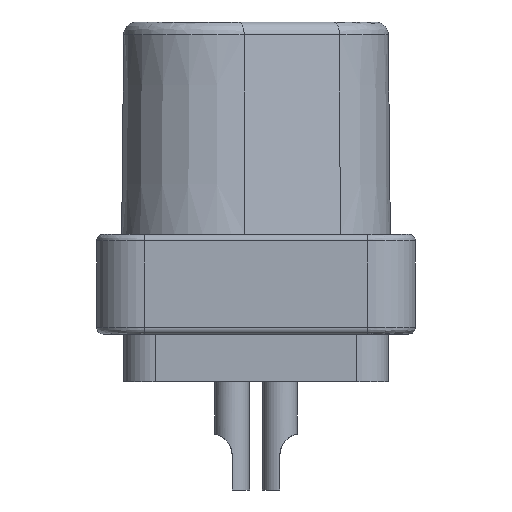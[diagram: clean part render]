
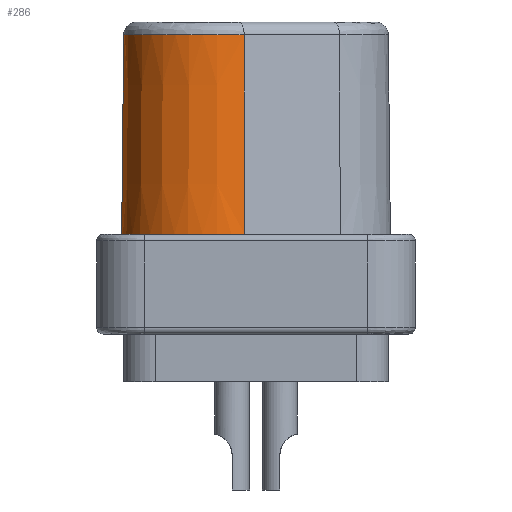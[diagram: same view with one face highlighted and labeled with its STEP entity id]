
A CAD part, left-side view. The second image highlights one B-rep face of the part: STEP entity #286.
In plain terms, the highlighted conical face has half-angle 0.585 degrees and reference radius 2 mm.
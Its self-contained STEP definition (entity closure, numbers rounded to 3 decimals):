
#44 = CONICAL_SURFACE ( 'NONE', #10660, 2., 0.01 ) ;
#270 = CARTESIAN_POINT ( 'NONE',  ( -4.813, 0.255, -4.9 ) ) ;
#286 = ADVANCED_FACE ( 'NONE', ( #3583 ), #44, .T. ) ;
#593 = VERTEX_POINT ( 'NONE', #2084 ) ;
#1323 = EDGE_CURVE ( 'NONE', #5407, #593, #7881, .T. ) ;
#1350 = DIRECTION ( 'NONE',  ( 0., 0., -1. ) ) ;
#1432 = AXIS2_PLACEMENT_3D ( 'NONE', #12097, #1350, #3399 ) ;
#1468 = AXIS2_PLACEMENT_3D ( 'NONE', #5638, #8534, #10215 ) ;
#1653 = VECTOR ( 'NONE', #11556, 1000. ) ;
#1709 = DIRECTION ( 'NONE',  ( 0., 0., -1. ) ) ;
#1834 = CIRCLE ( 'NONE', #1432, 2. ) ;
#2084 = CARTESIAN_POINT ( 'NONE',  ( -3., 3.053, -0.297 ) ) ;
#2559 = EDGE_LOOP ( 'NONE', ( #9604, #9787, #8692, #8745 ) ) ;
#3344 = CARTESIAN_POINT ( 'NONE',  ( -4.77, 0.275, -0.297 ) ) ;
#3399 = DIRECTION ( 'NONE',  ( -1., 0., 0. ) ) ;
#3583 = FACE_OUTER_BOUND ( 'NONE', #2559, .T. ) ;
#4599 = DIRECTION ( 'NONE',  ( -1., 0., 0. ) ) ;
#4938 = VERTEX_POINT ( 'NONE', #11500 ) ;
#5011 = CARTESIAN_POINT ( 'NONE',  ( -4.77, 0.275, -0.297 ) ) ;
#5407 = VERTEX_POINT ( 'NONE', #5820 ) ;
#5638 = CARTESIAN_POINT ( 'NONE',  ( -3., 1.1, -0.297 ) ) ;
#5820 = CARTESIAN_POINT ( 'NONE',  ( -3., 3.1, -4.9 ) ) ;
#7710 = CARTESIAN_POINT ( 'NONE',  ( -3., 3.077, -2.598 ) ) ;
#7881 = LINE ( 'NONE', #7710, #1653 ) ;
#7922 = VERTEX_POINT ( 'NONE', #3344 ) ;
#8153 = EDGE_CURVE ( 'NONE', #4938, #5407, #1834, .T. ) ;
#8534 = DIRECTION ( 'NONE',  ( 0., 0., -1. ) ) ;
#8692 = ORIENTED_EDGE ( 'NONE', *, *, #1323, .F. ) ;
#8729 = EDGE_CURVE ( 'NONE', #4938, #7922, #10436, .T. ) ;
#8745 = ORIENTED_EDGE ( 'NONE', *, *, #8153, .F. ) ;
#9480 = CIRCLE ( 'NONE', #1468, 1.953 ) ;
#9604 = ORIENTED_EDGE ( 'NONE', *, *, #8729, .T. ) ;
#9787 = ORIENTED_EDGE ( 'NONE', *, *, #10567, .T. ) ;
#10116 = CARTESIAN_POINT ( 'NONE',  ( -3., 1.1, -4.9 ) ) ;
#10215 = DIRECTION ( 'NONE',  ( 0., -1., 0. ) ) ;
#10436 = B_SPLINE_CURVE_WITH_KNOTS ( 'NONE', 1,
 ( #270, #5011 ),
 .UNSPECIFIED., .F., .F.,
 ( 2, 2 ),
 ( 0., 1. ),
 .UNSPECIFIED. ) ;
#10567 = EDGE_CURVE ( 'NONE', #7922, #593, #9480, .T. ) ;
#10660 = AXIS2_PLACEMENT_3D ( 'NONE', #10116, #1709, #4599 ) ;
#11500 = CARTESIAN_POINT ( 'NONE',  ( -4.813, 0.255, -4.9 ) ) ;
#11556 = DIRECTION ( 'NONE',  ( 0., -0.01, 1. ) ) ;
#12097 = CARTESIAN_POINT ( 'NONE',  ( -3., 1.1, -4.9 ) ) ;
